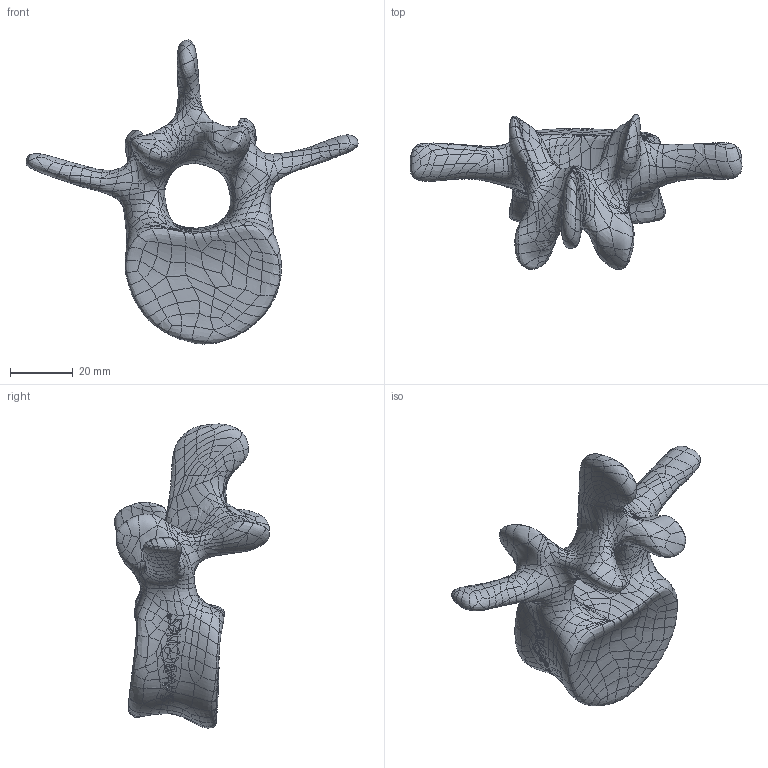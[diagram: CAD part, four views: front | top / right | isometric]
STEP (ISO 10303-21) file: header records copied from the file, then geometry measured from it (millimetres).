
FILE_DESCRIPTION (( 'STEP AP203' ), '1' );
FILE_NAME ('1375-50-3.STEP', '2026-08-04T17:01:05', ( '' ), ( '' ), 'SwSTEP 2.0', 'SolidWorks 2024', '' );
FILE_SCHEMA (( 'CONFIG_CONTROL_DESIGN' ));
Products named in the file (1): 1375-50-3
Bounding box: 105.75 x 49.39 x 96.85 mm (x, y, z)
Volume: 61173.4 mm3; surface area: 14682 mm2
Topology: 1 solids, 1 shells, 1810 faces, 3804 edges, 1998 vertices
Faces by surface type: bspline 1809, plane 1
Entity records: 401421 total; most frequent: CARTESIAN_POINT 376872, ORIENTED_EDGE 7608, EDGE_CURVE 3804, B_SPLINE_CURVE_WITH_KNOTS 3804, VERTEX_POINT 1998, EDGE_LOOP 1814, ADVANCED_FACE 1810, FACE_OUTER_BOUND 1810
